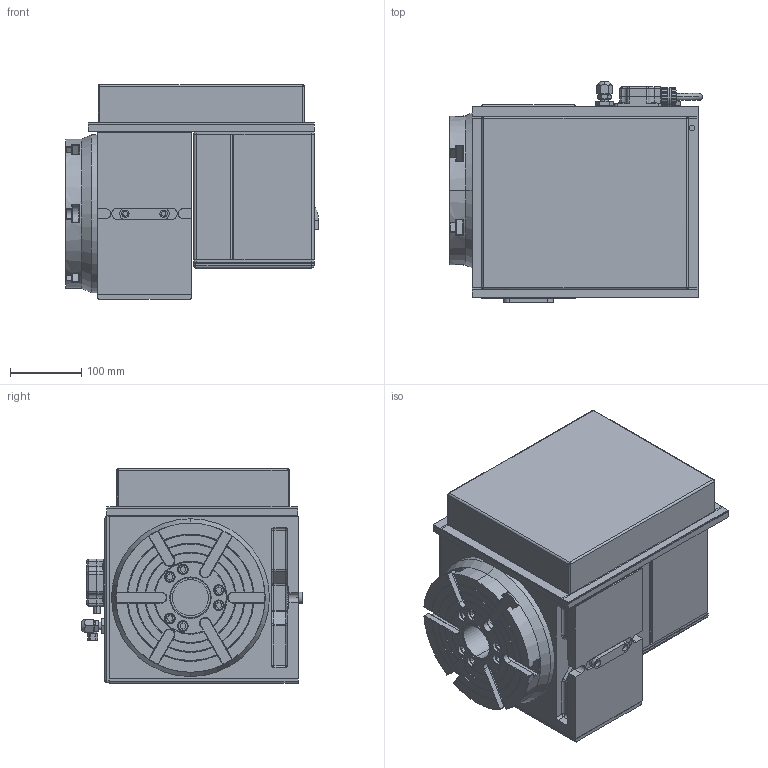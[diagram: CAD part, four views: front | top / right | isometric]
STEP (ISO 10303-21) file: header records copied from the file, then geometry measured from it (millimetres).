
FILE_DESCRIPTION (( 'STEP AP214' ), '1' );
FILE_NAME ('HRT210SP_STEP_10-2019.STEP', '2019-10-03T21:01:41', ( '' ), ( '' ), 'SwSTEP 2.0', 'SolidWorks 2019', '' );
FILE_SCHEMA (( 'AUTOMOTIVE_DESIGN' ));
Length unit declared in the file: inch
Products named in the file (5): HRT210SP_STEP_10-2019; Group1^10000118279_defeature; 10000122515-1^10000118279_defeature; 10000121906-1^10000118279_defeature; 10000118154-1^10000118279_defeature
Assembly tree (4 placements, depth 2):
  HRT210SP_STEP_10-2019
    Group1^10000118279_defeature
    10000118154-1^10000118279_defeature
    10000121906-1^10000118279_defeature
    10000122515-1^10000118279_defeature
Bounding box: 356.04 x 311.97 x 302.34 mm (x, y, z)
Volume: 13781950.1 mm3; surface area: 1287557.1 mm2
Topology: 9 solids, 9 shells, 1964 faces, 4994 edges, 3095 vertices
Faces by surface type: cylinder 707, plane 570, sphere 367, cone 189, torus 85, bspline 46
Entity records: 74022 total; most frequent: CARTESIAN_POINT 17970, DIRECTION 10267, ORIENTED_EDGE 9896, EDGE_CURVE 4948, AXIS2_PLACEMENT_3D 4125, VERTEX_POINT 3095, CIRCLE 2200, EDGE_LOOP 2063
